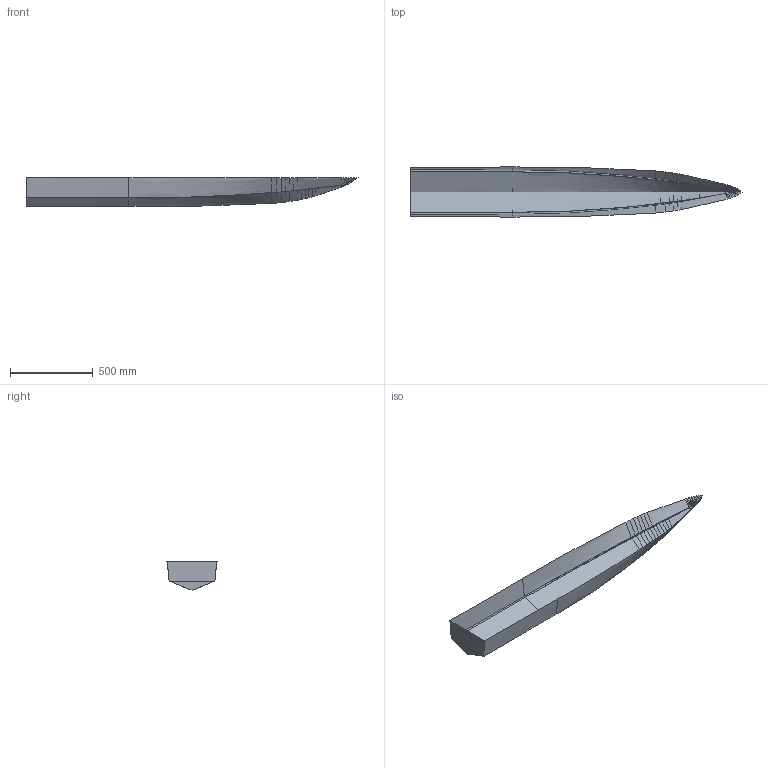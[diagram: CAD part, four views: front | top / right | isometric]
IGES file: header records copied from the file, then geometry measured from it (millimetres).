
Global section: file name: \\filestore.soton.ac.uk\users\djt2\mydocuments\Library\MyPublications\Journal\2011-IJSCT96-HSC Resistance\Models\HULL A.igs; native system: Rhinoceros ( May 22 2017 ); preprocessor: Trout Lake IGES 012 May 22 2017; date: 180801.114308; units: millimetre
Bounding box: 2000.03 x 301.69 x 173.41 mm (x, y, z)
Surface area: 942583.4 mm2 (no closed solid volume)
Topology: 0 solids, 0 shells, 90 faces, 2091 edges, 2203 vertices
Faces by surface type: bspline 90
